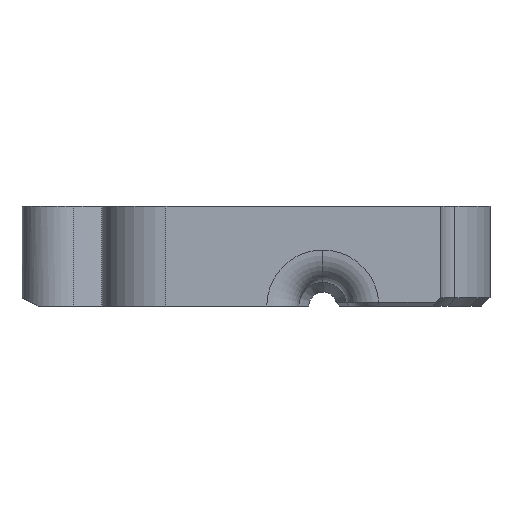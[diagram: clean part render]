
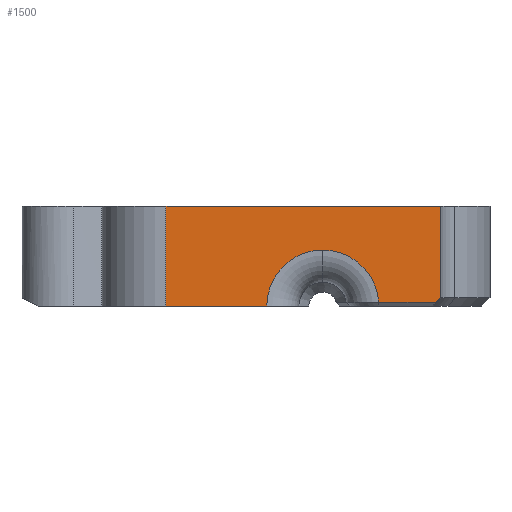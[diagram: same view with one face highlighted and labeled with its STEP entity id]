
A CAD part, front view. The second image highlights one B-rep face of the part: STEP entity #1500.
In plain terms, the highlighted planar face has unit normal (0, -1, 0).
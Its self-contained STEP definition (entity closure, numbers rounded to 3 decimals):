
#7 = CARTESIAN_POINT ( 'NONE',  ( 19.6, 0., 14.5 ) ) ;
#41 = CARTESIAN_POINT ( 'NONE',  ( 33.794, 0., 7.994 ) ) ;
#103 = CARTESIAN_POINT ( 'NONE',  ( 34.3, 0., 20. ) ) ;
#131 = AXIS2_PLACEMENT_3D ( 'NONE', #3176, #1586, #3437 ) ;
#149 = LINE ( 'NONE', #445, #2940 ) ;
#204 = CARTESIAN_POINT ( 'NONE',  ( 50., 0., 7.5 ) ) ;
#236 = ORIENTED_EDGE ( 'NONE', *, *, #3180, .T. ) ;
#298 = CARTESIAN_POINT ( 'NONE',  ( 19.6, 0., 7.5 ) ) ;
#307 = DIRECTION ( 'NONE',  ( 0., 0., 1. ) ) ;
#390 = FACE_OUTER_BOUND ( 'NONE', #3082, .T. ) ;
#437 = VERTEX_POINT ( 'NONE', #2540 ) ;
#445 = CARTESIAN_POINT ( 'NONE',  ( 34.3, 0., 8.5 ) ) ;
#513 = EDGE_CURVE ( 'NONE', #2953, #1373, #3252, .T. ) ;
#578 = DIRECTION ( 'NONE',  ( 0., 0., 1. ) ) ;
#789 = EDGE_CURVE ( 'NONE', #3463, #2750, #2645, .T. ) ;
#813 = EDGE_CURVE ( 'NONE', #3005, #1094, #2569, .T. ) ;
#861 = ORIENTED_EDGE ( 'NONE', *, *, #2345, .T. ) ;
#937 = DIRECTION ( 'NONE',  ( 0., 0., -1. ) ) ;
#1016 = ORIENTED_EDGE ( 'NONE', *, *, #813, .F. ) ;
#1094 = VERTEX_POINT ( 'NONE', #3278 ) ;
#1253 = EDGE_CURVE ( 'NONE', #3005, #3463, #1377, .T. ) ;
#1290 = CARTESIAN_POINT ( 'NONE',  ( 26.583, 0., 7.994 ) ) ;
#1331 = LINE ( 'NONE', #2465, #3372 ) ;
#1335 = DIRECTION ( 'NONE',  ( 1., 0., 0. ) ) ;
#1365 = CARTESIAN_POINT ( 'NONE',  ( 0., 0., 20. ) ) ;
#1373 = VERTEX_POINT ( 'NONE', #103 ) ;
#1377 = CIRCLE ( 'NONE', #2787, 7. ) ;
#1500 = ADVANCED_FACE ( 'NONE', ( #390 ), #1674, .F. ) ;
#1503 = VECTOR ( 'NONE', #937, 1000. ) ;
#1586 = DIRECTION ( 'NONE',  ( 0., 1., 0. ) ) ;
#1674 = PLANE ( 'NONE',  #2424 ) ;
#1679 = ORIENTED_EDGE ( 'NONE', *, *, #789, .T. ) ;
#1687 = EDGE_CURVE ( 'NONE', #437, #1373, #1331, .T. ) ;
#1847 = VECTOR ( 'NONE', #2391, 1000. ) ;
#1905 = DIRECTION ( 'NONE',  ( 0., 0., 1. ) ) ;
#1940 = DIRECTION ( 'NONE',  ( 0., 1., 0. ) ) ;
#2046 = ORIENTED_EDGE ( 'NONE', *, *, #1253, .T. ) ;
#2065 = ORIENTED_EDGE ( 'NONE', *, *, #1687, .T. ) ;
#2070 = VECTOR ( 'NONE', #1335, 1000. ) ;
#2114 = LINE ( 'NONE', #2808, #1503 ) ;
#2156 = CARTESIAN_POINT ( 'NONE',  ( 0., 0., 20. ) ) ;
#2200 = DIRECTION ( 'NONE',  ( 0., 1., 0. ) ) ;
#2217 = VERTEX_POINT ( 'NONE', #41 ) ;
#2315 = VECTOR ( 'NONE', #3500, 1000. ) ;
#2345 = EDGE_CURVE ( 'NONE', #2953, #1094, #2114, .T. ) ;
#2391 = DIRECTION ( 'NONE',  ( -1., 0., 0. ) ) ;
#2424 = AXIS2_PLACEMENT_3D ( 'NONE', #3265, #1940, #307 ) ;
#2465 = CARTESIAN_POINT ( 'NONE',  ( 34.3, 0., 7.246 ) ) ;
#2540 = CARTESIAN_POINT ( 'NONE',  ( 34.3, 0., 8.5 ) ) ;
#2569 = LINE ( 'NONE', #204, #1847 ) ;
#2645 = CIRCLE ( 'NONE', #131, 7. ) ;
#2750 = VERTEX_POINT ( 'NONE', #1290 ) ;
#2773 = LINE ( 'NONE', #2930, #2070 ) ;
#2787 = AXIS2_PLACEMENT_3D ( 'NONE', #298, #2200, #578 ) ;
#2808 = CARTESIAN_POINT ( 'NONE',  ( 0., 0., 7.5 ) ) ;
#2930 = CARTESIAN_POINT ( 'NONE',  ( 33.3, 0., 7.994 ) ) ;
#2940 = VECTOR ( 'NONE', #3140, 1000. ) ;
#2953 = VERTEX_POINT ( 'NONE', #2156 ) ;
#2997 = ORIENTED_EDGE ( 'NONE', *, *, #3312, .T. ) ;
#3005 = VERTEX_POINT ( 'NONE', #3240 ) ;
#3082 = EDGE_LOOP ( 'NONE', ( #2046, #1679, #2997, #236, #2065, #3114, #861, #1016 ) ) ;
#3114 = ORIENTED_EDGE ( 'NONE', *, *, #513, .F. ) ;
#3140 = DIRECTION ( 'NONE',  ( 0.707, 0., 0.707 ) ) ;
#3176 = CARTESIAN_POINT ( 'NONE',  ( 19.6, 0., 7.5 ) ) ;
#3180 = EDGE_CURVE ( 'NONE', #2217, #437, #149, .T. ) ;
#3240 = CARTESIAN_POINT ( 'NONE',  ( 12.6, 0., 7.5 ) ) ;
#3252 = LINE ( 'NONE', #1365, #2315 ) ;
#3265 = CARTESIAN_POINT ( 'NONE',  ( 0., 0., 15. ) ) ;
#3278 = CARTESIAN_POINT ( 'NONE',  ( 0., 0., 7.5 ) ) ;
#3312 = EDGE_CURVE ( 'NONE', #2750, #2217, #2773, .T. ) ;
#3372 = VECTOR ( 'NONE', #1905, 1000. ) ;
#3437 = DIRECTION ( 'NONE',  ( 0., 0., 1. ) ) ;
#3463 = VERTEX_POINT ( 'NONE', #7 ) ;
#3500 = DIRECTION ( 'NONE',  ( 1., 0., 0. ) ) ;
